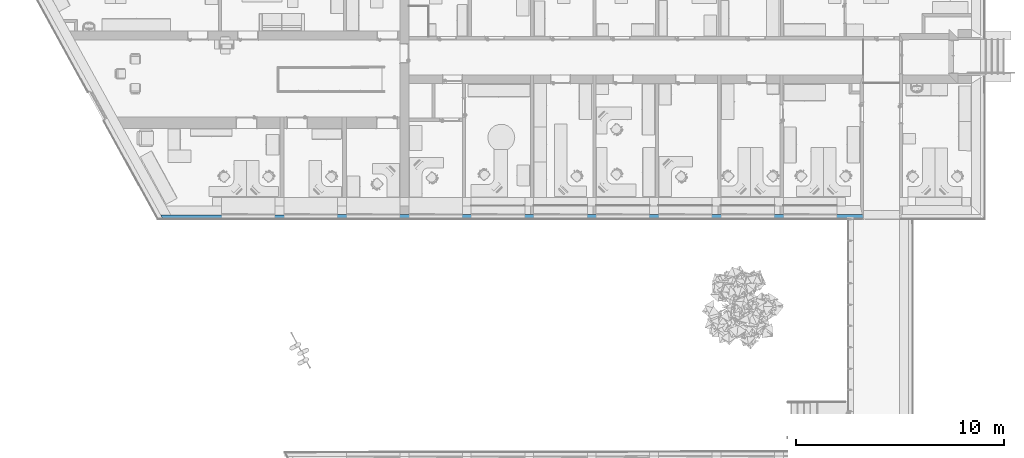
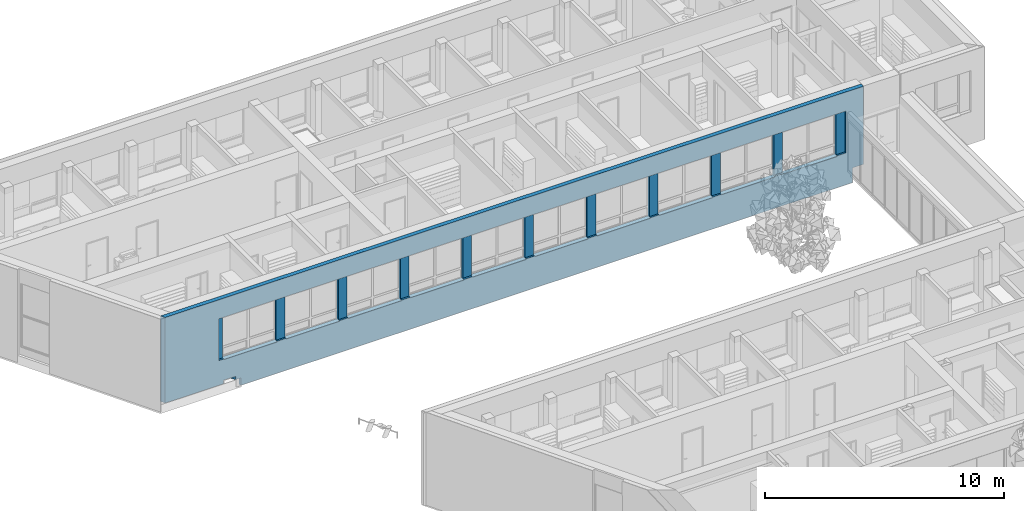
# One storey, part 90 of 194: 1 building element part, 10 openings, 1 element without a shape of its own.
"""IFC2X3 building model written with IfcOpenShell, lengths in millimetres."""

from ifc_helpers import new_model, entity, si_unit, converted_unit, derived_unit, money_unit, direction, frame, origin_with_axes, origin_2d_with_axis, place, context, subcontext, project, spatial, polyline, rectangle, outline, extrude, boolean, faceted_brep, material, type_object, element, aggregate, save


model = new_model("IFC2X3")

# Units and contexts
model_context = context("Model", 3, precision=1e-05, world=origin_with_axes(), true_north=direction((0.0, 1.0)))
body_context = subcontext(model_context, "Body", "Model", "MODEL_VIEW")
ifc_project = project(units=[si_unit("LENGTHUNIT", "METRE", prefix="MILLI"), si_unit("AREAUNIT", "SQUARE_METRE"), si_unit("VOLUMEUNIT", "CUBIC_METRE"), converted_unit("PLANEANGLEUNIT", "DEGREE", entity("IfcPlaneAngleMeasure", 0.0174532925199), si_unit("PLANEANGLEUNIT", "RADIAN"), dimensions=[0, 0, 0, 0, 0, 0, 0]), si_unit("SOLIDANGLEUNIT", "STERADIAN"), money_unit("EUR"), converted_unit("TIMEUNIT", "Year", entity("IfcTimeMeasure", 31556926.0), si_unit("TIMEUNIT", "SECOND"), dimensions=[0, 0, 1, 0, 0, 0, 0]), si_unit("MASSUNIT", "GRAM", prefix="KILO"), si_unit("THERMODYNAMICTEMPERATUREUNIT", "DEGREE_CELSIUS"), si_unit("LUMINOUSINTENSITYUNIT", "LUMEN"), si_unit("ENERGYUNIT", "JOULE", prefix="MEGA"), derived_unit("THERMALCONDUCTANCEUNIT", [(si_unit("POWERUNIT", "WATT"), 1), (si_unit("LENGTHUNIT", "METRE"), -1), (si_unit("THERMODYNAMICTEMPERATUREUNIT", "KELVIN"), -1)]), derived_unit("SPECIFICHEATCAPACITYUNIT", [(si_unit("ENERGYUNIT", "JOULE"), 1), (si_unit("MASSUNIT", "GRAM", prefix="KILO"), -1), (si_unit("THERMODYNAMICTEMPERATUREUNIT", "KELVIN"), -1)]), derived_unit("MASSDENSITYUNIT", [(si_unit("MASSUNIT", "GRAM", prefix="KILO"), 1), (si_unit("VOLUMEUNIT", "CUBIC_METRE"), -1)])], contexts=[model_context])

# Site, building, storey
site_placement = place(None, origin_with_axes())
site = spatial("IfcSite", under=ifc_project, at=site_placement, Name="Site", CompositionType="ELEMENT")
building_placement = place(site_placement, origin_with_axes())
building = spatial("IfcBuilding", under=site, at=building_placement, Name="Building", CompositionType="ELEMENT")
storey_placement = place(building_placement, frame((0.0, 0.0, 3000.0), z_axis=(0.0, 0.0, 1.0), x_axis=(1.0, 0.0, 0.0)))
storey = spatial("IfcBuildingStorey", under=building, at=storey_placement, Name="2 KORRUS", CompositionType="ELEMENT", Elevation=3000.0)

# Wall, openings, building element part
wall_type = type_object("IfcWallType", Name="VS4", PredefinedType="NOTDEFINED")
wall_placement = place(storey_placement, frame((4226.41631601, 58904.2587345, -750.0), z_axis=(0.0, 0.0, 1.0), x_axis=(0.999999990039, 0.000141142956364, 0.0)))
wall = element("IfcWall", 1, at=wall_placement, inside=storey, type_object=wall_type, Name="VS4")
opening_1_placement = place(wall_placement, frame((4217.61051359, 0.0, 1600.0), z_axis=(0.0, 0.0, 1.0), x_axis=(1.0, 0.0, 0.0)))
element("IfcOpeningElement", 2, at=opening_1_placement, cuts=wall, Name="välisaken * Double Window 22", context=body_context, shape_type="SweptSolid", body=[
    extrude(rectangle(XDim=2580.0, YDim=2100.0, at=origin_2d_with_axis()), frame((0.0, -19.9999999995, 1050.0), z_axis=(0.0, -1.0, 0.0), x_axis=(1.0, 0.0, 0.0)), (0.0, 0.0, -1.0), 1100.0),
    extrude(rectangle(XDim=2580.0, YDim=2100.0, at=origin_2d_with_axis()), frame((0.0, -19.9999999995, 1050.0), z_axis=(0.0, 1.0, 0.0), x_axis=(1.0, 0.0, 0.0)), (0.0, 0.0, -1.0), 850.000000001),
])
opening_2_placement = place(wall_placement, frame((7217.610458, 0.0, 1600.0), z_axis=(0.0, 0.0, 1.0), x_axis=(1.0, 0.0, 0.0)))
element("IfcOpeningElement", 3, at=opening_2_placement, cuts=wall, Name="välisaken * Double Window 22", context=body_context, shape_type="SweptSolid", body=[
    extrude(rectangle(XDim=2580.0, YDim=2100.0, at=origin_2d_with_axis()), frame((1.13686837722e-10, -19.9999999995, 1050.0), z_axis=(0.0, -1.0, 0.0), x_axis=(1.0, 0.0, 0.0)), (0.0, 0.0, -1.0), 1100.0),
    extrude(rectangle(XDim=2580.0, YDim=2100.0, at=origin_2d_with_axis()), frame((0.0, -19.9999999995, 1050.0), z_axis=(0.0, 1.0, 0.0), x_axis=(1.0, 0.0, 0.0)), (0.0, 0.0, -1.0), 850.000000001),
])
opening_3_placement = place(wall_placement, frame((10217.9483187, 0.0, 1600.0), z_axis=(0.0, 0.0, 1.0), x_axis=(1.0, 0.0, 0.0)))
element("IfcOpeningElement", 4, at=opening_3_placement, cuts=wall, Name="välisaken * Double Window 22", context=body_context, shape_type="SweptSolid", body=[
    extrude(rectangle(XDim=2580.0, YDim=2100.0, at=origin_2d_with_axis()), frame((2.27373675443e-10, -19.9999999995, 1050.0), z_axis=(0.0, -1.0, 0.0), x_axis=(1.0, 0.0, 0.0)), (0.0, 0.0, -1.0), 1100.0),
    extrude(rectangle(XDim=2580.0, YDim=2100.0, at=origin_2d_with_axis()), frame((1.13686837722e-10, -19.9999999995, 1050.0), z_axis=(0.0, 1.0, 0.0), x_axis=(1.0, 0.0, 0.0)), (0.0, 0.0, -1.0), 850.000000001),
])
opening_4_placement = place(wall_placement, frame((13217.6172268, 0.0, 1600.0), z_axis=(0.0, 0.0, 1.0), x_axis=(1.0, 0.0, 0.0)))
element("IfcOpeningElement", 5, at=opening_4_placement, cuts=wall, Name="välisaken * Double Window 22", context=body_context, shape_type="SweptSolid", body=[
    extrude(rectangle(XDim=2580.0, YDim=2100.0, at=origin_2d_with_axis()), frame((1.13686837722e-10, -19.9999999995, 1050.0), z_axis=(0.0, -1.0, 0.0), x_axis=(1.0, 0.0, 0.0)), (0.0, 0.0, -1.0), 1100.0),
    extrude(rectangle(XDim=2580.0, YDim=2100.0, at=origin_2d_with_axis()), frame((0.0, -19.9999999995, 1050.0), z_axis=(0.0, 1.0, 0.0), x_axis=(1.0, 0.0, 0.0)), (0.0, 0.0, -1.0), 850.000000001),
])
opening_5_placement = place(wall_placement, frame((16217.6100072, 0.0, 1600.0), z_axis=(0.0, 0.0, 1.0), x_axis=(1.0, 0.0, 0.0)))
element("IfcOpeningElement", 6, at=opening_5_placement, cuts=wall, Name="välisaken * Double Window 22", context=body_context, shape_type="SweptSolid", body=[
    extrude(rectangle(XDim=2580.0, YDim=2100.0, at=origin_2d_with_axis()), frame((2.27373675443e-10, -19.9999999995, 1050.0), z_axis=(0.0, -1.0, 0.0), x_axis=(1.0, 0.0, 0.0)), (0.0, 0.0, -1.0), 1100.0),
    extrude(rectangle(XDim=2580.0, YDim=2100.0, at=origin_2d_with_axis()), frame((0.0, -19.9999999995, 1050.0), z_axis=(0.0, 1.0, 0.0), x_axis=(1.0, 0.0, 0.0)), (0.0, 0.0, -1.0), 850.000000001),
])
opening_6_placement = place(wall_placement, frame((19217.6097877, -9.09494701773e-10, 1600.0), z_axis=(0.0, 0.0, 1.0), x_axis=(1.0, 0.0, 0.0)))
element("IfcOpeningElement", 7, at=opening_6_placement, cuts=wall, Name="välisaken * Double Window 22", context=body_context, shape_type="SweptSolid", body=[
    extrude(rectangle(XDim=2580.0, YDim=2100.0, at=origin_2d_with_axis()), frame((1.13686837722e-10, -19.9999999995, 1050.0), z_axis=(0.0, -1.0, 0.0), x_axis=(1.0, 0.0, 0.0)), (0.0, 0.0, -1.0), 1100.0),
    extrude(rectangle(XDim=2580.0, YDim=2100.0, at=origin_2d_with_axis()), frame((0.0, -19.9999999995, 1050.0), z_axis=(0.0, 1.0, 0.0), x_axis=(1.0, 0.0, 0.0)), (0.0, 0.0, -1.0), 850.000000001),
])
opening_7_placement = place(wall_placement, frame((22217.6095682, 0.0, 1600.0), z_axis=(0.0, 0.0, 1.0), x_axis=(1.0, 0.0, 0.0)))
element("IfcOpeningElement", 8, at=opening_7_placement, cuts=wall, Name="välisaken * Double Window 22", context=body_context, shape_type="SweptSolid", body=[
    extrude(rectangle(XDim=2580.0, YDim=2100.0, at=origin_2d_with_axis()), frame((1.13686837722e-10, -19.9999999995, 1050.0), z_axis=(0.0, -1.0, 0.0), x_axis=(1.0, 0.0, 0.0)), (0.0, 0.0, -1.0), 1100.0),
    extrude(rectangle(XDim=2580.0, YDim=2100.0, at=origin_2d_with_axis()), frame((1.13686837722e-10, -19.9999999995, 1050.0), z_axis=(0.0, 1.0, 0.0), x_axis=(1.0, 0.0, 0.0)), (0.0, 0.0, -1.0), 850.000000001),
])
opening_8_placement = place(wall_placement, frame((25219.1631179, 0.0, 1600.0), z_axis=(0.0, 0.0, 1.0), x_axis=(1.0, 0.0, 0.0)))
element("IfcOpeningElement", 9, at=opening_8_placement, cuts=wall, Name="välisaken * Double Window 22", context=body_context, shape_type="SweptSolid", body=[
    extrude(rectangle(XDim=2580.0, YDim=2100.0, at=origin_2d_with_axis()), frame((1.13686837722e-10, -19.9999999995, 1050.0), z_axis=(0.0, -1.0, 0.0), x_axis=(1.0, 0.0, 0.0)), (0.0, 0.0, -1.0), 1100.0),
    extrude(rectangle(XDim=2580.0, YDim=2100.0, at=origin_2d_with_axis()), frame((0.0, -19.9999999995, 1050.0), z_axis=(0.0, 1.0, 0.0), x_axis=(1.0, 0.0, 0.0)), (0.0, 0.0, -1.0), 850.000000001),
])
opening_9_placement = place(wall_placement, frame((28217.9460402, -9.09494701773e-10, 1600.0), z_axis=(0.0, 0.0, 1.0), x_axis=(1.0, 0.0, 0.0)))
element("IfcOpeningElement", 10, at=opening_9_placement, cuts=wall, Name="välisaken * Double Window 22", context=body_context, shape_type="SweptSolid", body=[
    extrude(rectangle(XDim=2580.0, YDim=2100.0, at=origin_2d_with_axis()), frame((2.27373675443e-10, -19.9999999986, 1050.0), z_axis=(0.0, -1.0, 0.0), x_axis=(1.0, 0.0, 0.0)), (0.0, 0.0, -1.0), 1100.0),
    extrude(rectangle(XDim=2580.0, YDim=2100.0, at=origin_2d_with_axis()), frame((1.13686837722e-10, -19.9999999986, 1050.0), z_axis=(0.0, 1.0, 0.0), x_axis=(1.0, 0.0, 0.0)), (0.0, 0.0, -1.0), 850.000000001),
])
opening_10_placement = place(wall_placement, frame((31218.0049304, 0.0, 1600.0), z_axis=(0.0, 0.0, 1.0), x_axis=(1.0, 0.0, 0.0)))
element("IfcOpeningElement", 11, at=opening_10_placement, cuts=wall, Name="välisaken * Double Window 22", context=body_context, shape_type="SweptSolid", body=[
    extrude(rectangle(XDim=2580.0, YDim=2100.0, at=origin_2d_with_axis()), frame((2.27373675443e-10, -19.9999999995, 1050.0), z_axis=(0.0, -1.0, 0.0), x_axis=(1.0, 0.0, 0.0)), (0.0, 0.0, -1.0), 1100.0),
    extrude(rectangle(XDim=2580.0, YDim=2100.0, at=origin_2d_with_axis()), frame((1.13686837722e-10, -19.9999999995, 1050.0), z_axis=(0.0, 1.0, 0.0), x_axis=(1.0, 0.0, 0.0)), (0.0, 0.0, -1.0), 850.000000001),
])
ifc_material = material(Name="Soojustus - Plastik Kõva")
building_element_part_placement = place(wall_placement, origin_with_axes())
solid = boolean("DIFFERENCE", boolean("DIFFERENCE", boolean("DIFFERENCE", boolean("DIFFERENCE", boolean("DIFFERENCE", boolean("DIFFERENCE", boolean("DIFFERENCE", boolean("DIFFERENCE", extrude(outline(polyline([(-487.802936, -200.000000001), (33778.5662491, -200.000000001), (33778.5662491, 0.0), (-487.802936, 0.0), (-487.802936, -200.000000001)])), origin_with_axes(), (0.0, 0.0, 1.0), 4730.0), faceted_brep([(490.832959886, 0.0, 0.0), (490.832959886, -9.09494701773e-10, 4730.0), (-487.802936, 0.0, 4730.0), (-487.802936, 0.0, 0.0), (254.153863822, 430.00000001, 4730.0), (254.153863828, 429.999999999, 0.0), (-487.802936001, 429.999999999, 4730.0), (-487.802936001, 429.999999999, 0.0)], [[[0, 1, 2, 3]], [[4, 1, 0, 5]], [[1, 4, 6, 2]], [[6, 7, 3, 2]], [[5, 0, 3, 7]], [[4, 5, 7, 6]]])), faceted_brep([(32927.9456551, 429.999999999, 0.0), (32927.9456551, 430.000000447, 350.0), (33259.9762776, 430.000000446, 350.0), (33259.9762776, 429.999999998, 0.0), (32927.94289, 410.409378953, 0.0), (32927.94289, 410.409378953, 350.0), (32507.9428942, 410.468658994, 350.0), (32507.9456509, 430.000000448, 350.0), (29927.9460366, 430.000000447, 350.0), (29927.9432799, 410.468658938, 350.0), (29507.943284, 410.52793898, 350.0), (29507.9460324, 430.000000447, 350.0), (26927.946418, 430.000000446, 350.0), (26927.943653, 410.409379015, 350.0), (26507.9436571, 410.468659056, 350.0), (26507.9464139, 430.000000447, 350.0), (23927.9467995, 430.000000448, 350.0), (23927.9440428, 410.468659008, 350.0), (23507.944047, 410.52793905, 350.0), (23507.9467953, 430.000000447, 350.0), (20927.947181, 430.000000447, 350.0), (20927.9444242, 410.46865898, 350.0), (20507.9444284, 410.527939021, 350.0), (20507.9471768, 430.000000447, 350.0), (17927.9475624, 430.000000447, 350.0), (17927.9449479, 411.476005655, 350.0), (17507.9449521, 411.535285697, 350.0), (17507.9475582, 430.000000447, 350.0), (14927.9479439, 430.000000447, 350.0), (14927.9451674, 410.328432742, 350.0), (14507.9451716, 410.387712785, 350.0), (14507.9479397, 430.000000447, 350.0), (11927.9483253, 430.000000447, 350.0), (11927.9453869, 409.180859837, 350.0), (11507.945391, 409.240139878, 350.0), (11507.9483211, 430.000000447, 350.0), (8928.28635755, 430.000000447, 350.0), (8928.28347883, 409.604240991, 350.0), (8508.28348301, 409.663521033, 350.0), (8508.28635337, 430.000000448, 350.0), (5927.9484371, 430.000000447, 350.0), (5927.94561815, 410.02771755, 350.0), (5507.94562233, 410.086997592, 350.0), (5507.94843291, 430.000000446, 350.0), (3422.17787231, 430.000000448, 350.0), (3630.60652961, 50.9099216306, 350.0), (3658.59746686, 0.0, 350.0), (33099.7594101, 0.0, 350.0), (33099.7846807, 50.1106312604, 350.0), (33259.7846989, 50.1062915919, 350.0), (33259.7846989, 50.1062915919, 0.0), (33099.7846807, 50.1106312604, 0.0), (33099.7594101, 0.0, 0.0), (3658.59746686, 0.0, 0.0), (3630.60652961, 50.9099216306, 0.0), (3422.17787256, 430.0, 0.0), (5507.94843291, 429.999999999, 0.0), (5507.94562233, 410.086997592, 0.0), (5927.94561815, 410.02771755, 0.0), (5927.9484371, 429.999999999, 0.0), (8508.28635337, 430.0, 0.0), (8508.28348301, 409.663521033, 0.0), (8928.28347883, 409.604240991, 0.0), (8928.28635755, 430.0, 0.0), (11507.9483211, 429.999999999, 0.0), (11507.945391, 409.240139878, 0.0), (11927.9453869, 409.180859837, 0.0), (11927.9483253, 429.999999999, 0.0), (14507.9479397, 429.999999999, 0.0), (14507.9451716, 410.387712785, 0.0), (14927.9451674, 410.328432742, 0.0), (14927.9479439, 429.999999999, 0.0), (17507.9475582, 429.999999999, 0.0), (17507.9449521, 411.535285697, 0.0), (17927.9449479, 411.476005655, 0.0), (17927.9475624, 429.999999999, 0.0), (20507.9471768, 429.999999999, 0.0), (20507.9444284, 410.527939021, 0.0), (20927.9444242, 410.46865898, 0.0), (20927.947181, 429.999999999, 0.0), (23507.9467953, 429.999999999, 0.0), (23507.944047, 410.52793905, 0.0), (23927.9440428, 410.468659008, 0.0), (23927.9467995, 430.0, 0.0), (26507.9464139, 429.999999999, 0.0), (26507.9436571, 410.468659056, 0.0), (26927.943653, 410.409379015, 0.0), (26927.946418, 429.999999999, 0.0), (29507.9460324, 429.999999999, 0.0), (29507.943284, 410.52793898, 0.0), (29927.9432799, 410.468658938, 0.0), (29927.9460366, 429.999999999, 0.0), (32507.9456509, 430.0, 0.0), (32507.9428942, 410.468658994, 0.0)], [[[0, 1, 2, 3]], [[1, 0, 4, 5]], [[2, 1, 5, 6, 7, 8, 9, 10, 11, 12, 13, 14, 15, 16, 17, 18, 19, 20, 21, 22, 23, 24, 25, 26, 27, 28, 29, 30, 31, 32, 33, 34, 35, 36, 37, 38, 39, 40, 41, 42, 43, 44, 45, 46, 47, 48, 49]], [[3, 2, 49, 50]], [[4, 0, 3, 50, 51, 52, 53, 54, 55, 56, 57, 58, 59, 60, 61, 62, 63, 64, 65, 66, 67, 68, 69, 70, 71, 72, 73, 74, 75, 76, 77, 78, 79, 80, 81, 82, 83, 84, 85, 86, 87, 88, 89, 90, 91, 92, 93]], [[4, 93, 6, 5]], [[92, 7, 6, 93]], [[7, 92, 91, 8]], [[8, 91, 90, 9]], [[90, 89, 10, 9]], [[88, 11, 10, 89]], [[11, 88, 87, 12]], [[12, 87, 86, 13]], [[86, 85, 14, 13]], [[84, 15, 14, 85]], [[15, 84, 83, 16]], [[16, 83, 82, 17]], [[82, 81, 18, 17]], [[80, 19, 18, 81]], [[19, 80, 79, 20]], [[20, 79, 78, 21]], [[78, 77, 22, 21]], [[76, 23, 22, 77]], [[23, 76, 75, 24]], [[24, 75, 74, 25]], [[74, 73, 26, 25]], [[72, 27, 26, 73]], [[27, 72, 71, 28]], [[28, 71, 70, 29]], [[70, 69, 30, 29]], [[68, 31, 30, 69]], [[31, 68, 67, 32]], [[32, 67, 66, 33]], [[66, 65, 34, 33]], [[64, 35, 34, 65]], [[35, 64, 63, 36]], [[36, 63, 62, 37]], [[62, 61, 38, 37]], [[60, 39, 38, 61]], [[39, 60, 59, 40]], [[40, 59, 58, 41]], [[58, 57, 42, 41]], [[56, 43, 42, 57]], [[43, 56, 55, 44]], [[55, 54, 45, 44]], [[53, 46, 45, 54]], [[46, 53, 52, 47]], [[52, 51, 48, 47]], [[51, 50, 49, 48]]])), faceted_brep([(33778.4621326, 430.000000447, 4730.0), (33778.4621326, 0.0, 4730.0), (33778.5662491, 0.0, 4730.0), (33778.5662491, 430.0, 4730.0), (33778.4621323, 0.0, 4000.0), (33778.4621326, 430.000000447, 4000.0), (33778.4621323, 0.0, 750.0), (33778.4621326, 0.0, 0.0), (33778.5662491, 0.0, 0.0), (33778.5662491, 430.0, 0.0), (33778.4621326, 429.999999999, 0.0), (33778.4621326, 429.999999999, 750.0), (33778.2586322, 429.999999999, 750.0), (33778.2586322, 429.999999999, 4000.0)], [[[0, 1, 2, 3]], [[4, 1, 0, 5]], [[6, 7, 8, 2, 1, 4]], [[2, 8, 9, 3]], [[5, 0, 3, 9, 10, 11, 12, 13]], [[5, 13, 4]], [[7, 6, 11, 10]], [[7, 10, 9, 8]], [[6, 4, 13, 12]], [[12, 11, 6]]])), faceted_brep([(2682.40292194, -200.000000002, 1630.0), (32927.8847586, -200.000000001, 1630.0), (32927.8847586, -200.000000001, 3762.38569103), (2682.40292194, -200.000000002, 3762.38569103), (2682.41561411, -110.075806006, 1630.0), (32927.8968483, -114.344742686, 1630.0), (32927.8968483, -114.344742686, 3762.38569103), (2682.41561411, -110.075806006, 3762.38569103)], [[[0, 1, 2, 3]], [[1, 0, 4, 5]], [[2, 1, 5, 6]], [[3, 2, 6, 7]], [[0, 3, 7, 4]], [[4, 7, 6, 5]]])), faceted_brep([(3658.59746686, 0.0, 367.85512503), (3658.59746686, 0.0, 350.0), (33099.7594101, 0.0, 350.0), (33099.7594101, 0.0, 0.0), (-487.802936, 0.0, 0.0), (-487.802936, 0.0, 4730.0), (-2.27373675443e-10, 0.0, 4730.0), (-2.27373675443e-10, 0.0, 367.85512503), (2816.14557684, 0.0, 367.85512503), (2816.14557684, 0.0, 547.981410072), (3386.81224966, 0.0, 547.981410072), (3386.81224966, 0.0, 367.85512503), (3768.56006886, -200.000000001, 0.0), (3724.07613521, -119.092613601, 0.0), (3724.07613521, -119.092613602, 350.0), (3768.56006886, -200.000000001, 367.85512503), (33089.6989493, -119.889095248, 350.0), (33089.7039923, -109.889095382, 350.0), (33099.7039934, -109.889366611, 350.0), (33099.7039934, -109.889366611, 0.0), (-487.802936, -200.000000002, 0.0), (33089.7039923, -109.889095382, 0.0), (33089.6989493, -119.889095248, 0.0), (-487.802936, -200.000000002, 4730.0), (110.083300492, -200.000000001, 4730.0), (110.083300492, -200.000000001, 367.85512503), (2926.1713567, -200.0, 367.85512503), (2926.1713567, -200.0, 547.981410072), (3496.83802953, -200.000000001, 547.981410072), (3496.83802953, -200.000000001, 367.85512503)], [[[0, 1, 2, 3, 4, 5, 6, 7, 8, 9, 10, 11]], [[12, 13, 14, 1, 0, 15]], [[2, 1, 14, 16, 17, 18]], [[3, 2, 18, 19]], [[13, 12, 20, 4, 3, 19, 21, 22]], [[5, 4, 20, 23]], [[24, 6, 5, 23]], [[6, 24, 25, 7]], [[8, 7, 25, 26]], [[9, 8, 26, 27]], [[10, 9, 27, 28]], [[11, 10, 28, 29]], [[0, 11, 29, 15]], [[13, 22, 16, 14]], [[25, 24, 23, 20, 12, 15, 29, 28, 27, 26]], [[22, 21, 17, 16]], [[21, 19, 18, 17]]])), faceted_brep([(33778.4621326, -200.000000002, 4730.0), (33778.4621326, -200.000000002, 4000.0), (33778.5567835, -200.000004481, 4000.0), (33778.5662491, -200.000000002, 4730.0), (33778.4621326, 0.0, 4730.0), (33778.4621323, 0.0, 4000.0), (33778.5567835, -200.000004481, 750.0), (33778.5662491, -200.000000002, 0.0), (33778.5662491, 0.0, 0.0), (33778.5662491, 0.0, 4730.0), (33259.7594305, 0.0, 0.0), (33259.7594305, 0.0, 750.0), (33778.4621323, 0.0, 750.0), (33259.6585713, -200.000000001, 750.0), (33259.6585713, -200.000000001, 0.0), (33778.4621326, -200.000000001, 750.0)], [[[0, 1, 2, 3]], [[1, 0, 4, 5]], [[2, 1, 5]], [[2, 6, 7, 8, 9, 3]], [[4, 0, 3, 9]], [[5, 4, 9, 8, 10, 11, 12]], [[6, 2, 5, 12]], [[13, 14, 7, 6, 15]], [[14, 10, 8, 7]], [[11, 10, 14, 13]], [[12, 11, 13, 15]], [[15, 6, 12]]])), faceted_brep([(-487.802936, -220.000000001, 0.0), (-107.202769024, -220.008866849, 0.0), (98.0806644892, -220.000000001, 0.0), (98.0806644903, -220.000000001, 367.85512503), (-107.202769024, -220.008866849, 367.85512503), (-107.202769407, -220.0, 4730.0), (-487.802936, -220.000000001, 4730.0), (-487.802936, -200.000000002, 0.0), (3768.56006886, -200.000000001, 0.0), (3779.46890279, -219.840989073, 0.0), (3507.75958732, -219.852725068, 0.0), (3507.84060752, -219.999999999, 0.0), (2937.17393469, -220.0, 0.0), (2937.10647425, -219.877373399, 0.0), (2937.10647425, -219.877373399, 367.85512503), (2926.1713567, -200.0, 367.85512503), (110.083300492, -200.000000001, 367.85512503), (-118.211099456, -200.0, 367.85512503), (-118.211099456, -200.0, 4730.0), (-487.802936, -200.000000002, 4730.0), (2926.1713567, -200.0, 547.981410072), (3496.83802953, -200.000000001, 547.981410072), (3496.83802953, -200.000000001, 367.85512503), (3768.56006886, -200.000000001, 367.85512503), (3779.46890279, -219.840989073, 367.85512503), (3507.75958732, -219.852725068, 367.85512503), (3507.84060752, -219.999999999, 547.981410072), (2937.17393469, -219.999999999, 547.981410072)], [[[0, 1, 2, 3, 4, 5, 6]], [[1, 0, 7, 8, 9, 10, 11, 12, 13, 2]], [[3, 2, 13, 14]], [[4, 3, 14, 15, 16, 17]], [[5, 4, 17, 18]], [[6, 5, 18, 19]], [[0, 6, 19, 7]], [[7, 19, 18, 17, 16, 15, 20, 21, 22, 23, 8]], [[9, 8, 23, 24]], [[10, 9, 24, 25]], [[11, 10, 25, 22, 21, 26]], [[27, 12, 11, 26]], [[13, 12, 27, 20, 15, 14]], [[27, 26, 21, 20]], [[22, 25, 24, 23]]])), faceted_brep([(2682.40009908, -220.000000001, 1630.0), (2682.40009908, -220.000000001, 3762.38569103), (2682.40292194, -200.000000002, 3762.38569103), (2682.40292194, -200.000000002, 1630.0), (32927.8819358, -219.999999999, 1630.0), (32927.8819358, -219.999999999, 3762.38569103), (32927.8847586, -200.000000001, 3762.38569103), (32927.8847586, -200.000000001, 1630.0)], [[[0, 1, 2, 3]], [[1, 0, 4, 5]], [[1, 5, 6, 2]], [[3, 2, 6, 7]], [[4, 0, 3, 7]], [[5, 4, 7, 6]]]))
building_element_part = element("IfcBuildingElementPart", 12, at=building_element_part_placement, material=ifc_material, Name="Soojustus - Plastik Kõva", context=body_context, shape_type="CSG", body=[
    boolean("DIFFERENCE", boolean("DIFFERENCE", solid, faceted_brep([(33259.6484854, -220.0, 750.0), (33259.6484854, -220.0, 0.0), (33778.5662491, -220.000000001, 0.0), (33778.5662487, -220.0, 750.0), (33778.4621326, -220.0, 750.0), (33259.6585713, -200.000000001, 750.0), (33259.6585713, -200.000000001, 0.0), (33778.5662491, -200.000000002, 0.0), (33778.5567835, -200.000000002, 750.0), (33778.4621326, -200.000000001, 750.0)], [[[0, 1, 2, 3, 4]], [[1, 0, 5, 6]], [[1, 6, 7, 2]], [[2, 7, 8, 3]], [[4, 3, 8, 9]], [[5, 0, 4, 9]], [[6, 5, 9, 8, 7]]])), faceted_brep([(33778.5567835, -200.000000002, 4000.0), (33778.4621325, -200.000000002, 4000.0), (33778.4621326, -200.000000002, 4730.0), (33778.5662491, -200.000000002, 4730.0), (33778.5662487, -220.000000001, 4000.0), (33778.4621326, -220.0, 4000.0), (33778.4621326, -220.0, 4730.0), (33778.5662491, -220.000000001, 4730.0)], [[[0, 1, 2, 3]], [[4, 5, 1, 0]], [[5, 6, 2, 1]], [[6, 7, 3, 2]], [[3, 7, 4, 0]], [[5, 4, 7, 6]]])),
])
aggregate(wall, [building_element_part])

save(model, "model.ifc")
